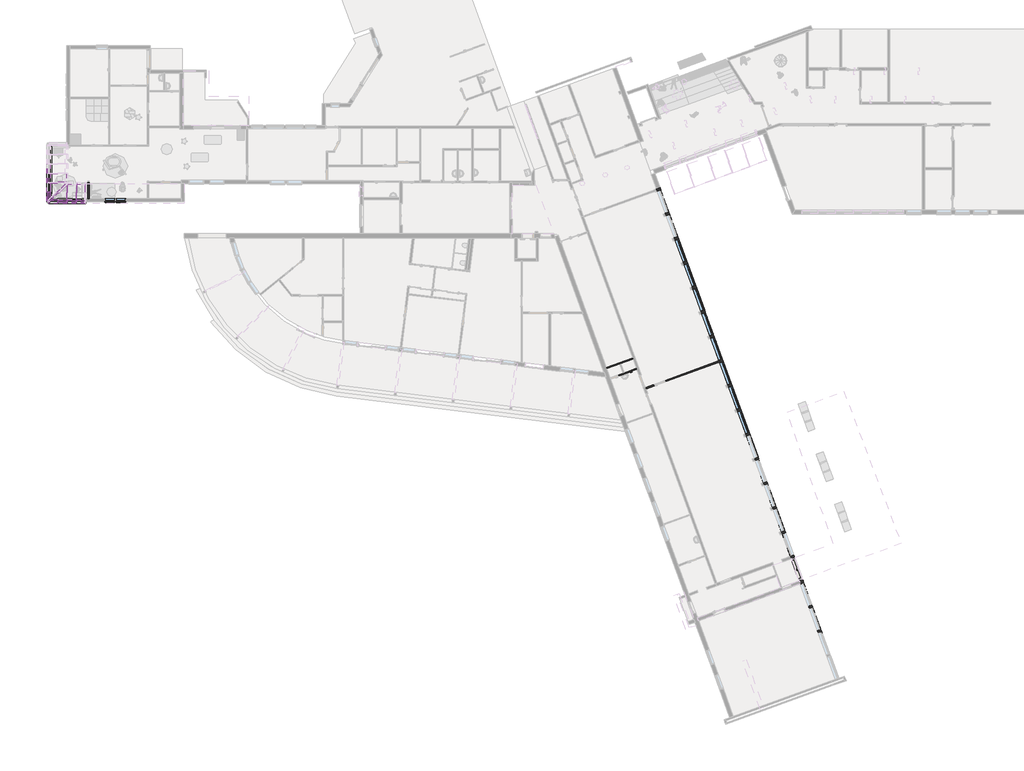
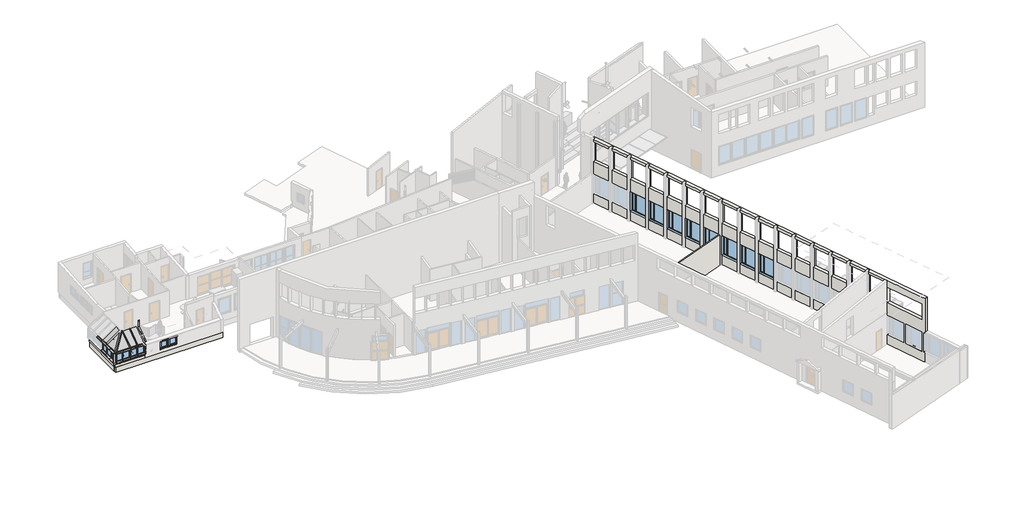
# One storey, part 4 of 13: 27 members, 17 windows, 9 walls, 5 plates, 1 door.
"""IFC4 building model written with IfcOpenShell, lengths in millimetres."""

from ifc_helpers import new_model, si_unit, frame, origin, place, context, project, spatial, polyline, outline, extrude, faceted_brep, transform, mapped, element, save
from components import door_7x21_15e86ef2, rectangular_mullion_50_x_100mm_32921d9c, rectangular_mullion_50_x_100mm_d6c749a0, rectangular_mullion_50_x_100mm_c186e3b1, rectangular_mullion_50_x_100mm_30790735, rectangular_mullion_50_x_100mm_6f98f456, rectangular_mullion_50_x_100mm_fe611bd6, rectangular_mullion_50_x_100mm_699c379f, rectangular_mullion_50_x_100mm_a1e9fdaf, rectangular_mullion_50_x_150mm_88eebec3, rectangular_mullion_50_x_150mm_d157fd23, system_panel_glazed_632911cd, system_panel_glazed_2f817a3c, system_panel_glazed_4af0c66e, system_panel_glazed_f3d5071e, system_panel_glazed_b3cc5cf8, window_193x212_1140f226, window_7x7_fk_a7d3f3a8, curtain_wall_awning_curtain_wall_awning_fc9573cd, curtain_wall_awning_curtain_wall_awning_8a8df056, curtain_wall_awning_curtain_wall_awning_5f5da433, curtain_wall_awning_curtain_wall_awning_e2df08a2

model = new_model("IFC4")

# Units and contexts
model_context = context("Model", 3, world=origin())
ifc_project = project(units=[si_unit("LENGTHUNIT", "METRE", prefix="MILLI")], contexts=[model_context])

# Site, building, storey
site = spatial("IfcSite", under=ifc_project)
building = spatial("IfcBuilding", under=site)
storey = spatial("IfcBuildingStorey", under=building, Name="1.0 første etg hovedbygg", Elevation=2500.0)

# Door
placement = place(None, origin())
door_7x21_shape = door_7x21_15e86ef2(model_context)
element("IfcDoor", 1, ObjectType="Innerdør Slett (Diplomat) : 7x21", at=placement, inside=storey, context=model_context, shape_type="MappedRepresentation", body=[
    mapped(door_7x21_shape, transform((33252.1399511, -11373.1326866, 2500.0), x_axis=(-0.939692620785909, -0.3420201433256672, 0.0), y_axis=(0.3420201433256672, -0.939692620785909, 0.0), z_axis=(0.0, 0.0, 1.0))),
])

# Members
rectangular_mullion_50_x_100mm_shape = rectangular_mullion_50_x_100mm_32921d9c(model_context)
element("IfcMember", 2, ObjectType="Rectangular Mullion : 50 x 100mm", at=placement, inside=storey, context=model_context, shape_type="MappedRepresentation", body=[
    mapped(rectangular_mullion_50_x_100mm_shape, transform((-14953.1146748, 2545.0013961, 3000.0), x_axis=(0.0, -1.0, 0.0), y_axis=(-1.0, 0.0, 0.0), z_axis=(0.0, 0.0, -1.0))),
])
element("IfcMember", 3, ObjectType="Rectangular Mullion : 50 x 100mm", at=placement, inside=storey, context=model_context, shape_type="MappedRepresentation", body=[
    mapped(rectangular_mullion_50_x_100mm_shape, transform((-11906.1146748, 2545.0013961, 3000.0), x_axis=(1.0, 0.0, 0.0), y_axis=(0.0, -1.0, 0.0), z_axis=(0.0, 0.0, -1.0))),
])
element("IfcMember", 4, ObjectType="Rectangular Mullion : 50 x 100mm", at=placement, inside=storey, context=model_context, shape_type="MappedRepresentation", body=[
    mapped(rectangular_mullion_50_x_100mm_shape, transform((-14953.1146748, 2545.0013961, 4050.0), x_axis=(-1.0, 0.0, 0.0), y_axis=(0.0, -1.0, 0.0), z_axis=(0.0, 0.0, 1.0))),
])
rectangular_mullion_50_x_100mm_2_shape = rectangular_mullion_50_x_100mm_d6c749a0(model_context)
element("IfcMember", 5, ObjectType="Rectangular Mullion : 50 x 100mm", at=placement, inside=storey, context=model_context, shape_type="MappedRepresentation", body=[
    mapped(rectangular_mullion_50_x_100mm_2_shape, transform((-14953.1146748, 2545.0013961, 4050.0), x_axis=(-0.773589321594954, 0.5190862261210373, 0.3634680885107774), y_axis=(0.0, 0.5735764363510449, -0.8191520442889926), z_axis=(-0.6336872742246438, -0.6336872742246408, -0.44371260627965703))),
])
rectangular_mullion_50_x_100mm_3_shape = rectangular_mullion_50_x_100mm_c186e3b1(model_context)
element("IfcMember", 6, ObjectType="Rectangular Mullion : 50 x 100mm", at=placement, inside=storey, context=model_context, shape_type="MappedRepresentation", body=[
    mapped(rectangular_mullion_50_x_100mm_3_shape, transform((-12667.8646748, 3989.0423978, 5061.1283949), x_axis=(1.0, 0.0, 0.0), y_axis=(0.0, 0.5735764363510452, -0.8191520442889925), z_axis=(0.0, 0.8191520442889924, 0.573576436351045))),
])
element("IfcMember", 7, ObjectType="Rectangular Mullion : 50 x 100mm", at=placement, inside=storey, context=model_context, shape_type="MappedRepresentation", body=[
    mapped(rectangular_mullion_50_x_100mm_3_shape, transform((-13429.6146748, 3989.0423978, 5061.1283949), x_axis=(1.0, 0.0, 0.0), y_axis=(0.0, 0.5735764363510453, -0.8191520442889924), z_axis=(0.0, 0.8191520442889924, 0.5735764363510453))),
])
rectangular_mullion_50_x_100mm_4_shape = rectangular_mullion_50_x_100mm_30790735(model_context)
element("IfcMember", 8, ObjectType="Rectangular Mullion : 50 x 100mm", at=placement, inside=storey, context=model_context, shape_type="MappedRepresentation", body=[
    mapped(rectangular_mullion_50_x_100mm_4_shape, transform((-11957.7908366, 2545.0013961, 4050.0), x_axis=(0.0, -0.8191520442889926, -0.573576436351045), y_axis=(0.0, 0.573576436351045, -0.8191520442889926), z_axis=(1.0, 0.0, 0.0))),
])
rectangular_mullion_50_x_100mm_5_shape = rectangular_mullion_50_x_100mm_6f98f456(model_context)
element("IfcMember", 9, ObjectType="Rectangular Mullion : 50 x 100mm", at=placement, inside=storey, context=model_context, shape_type="MappedRepresentation", body=[
    mapped(rectangular_mullion_50_x_100mm_5_shape, transform((-14953.1146748, 4105.0013961, 4050.0), x_axis=(-0.819152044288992, 0.0, -0.5735764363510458), y_axis=(0.5735764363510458, 0.0, -0.819152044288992), z_axis=(0.0, -1.0, 0.0))),
])
element("IfcMember", 10, ObjectType="Rectangular Mullion : 50 x 100mm", at=placement, inside=storey, context=model_context, shape_type="MappedRepresentation", body=[
    mapped(rectangular_mullion_50_x_100mm_5_shape, transform((-14953.1146748, 4885.0013961, 4050.0), x_axis=(-0.819152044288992, 0.0, -0.5735764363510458), y_axis=(0.5735764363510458, 0.0, -0.819152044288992), z_axis=(0.0, -1.0, 0.0))),
])
rectangular_mullion_50_x_100mm_6_shape = rectangular_mullion_50_x_100mm_fe611bd6(model_context)
element("IfcMember", 11, ObjectType="Rectangular Mullion : 50 x 100mm", at=placement, inside=storey, context=model_context, shape_type="MappedRepresentation", body=[
    mapped(rectangular_mullion_50_x_100mm_6_shape, transform((-14953.1146748, 2545.0013961, 4050.0), x_axis=(-0.819152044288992, 0.0, -0.5735764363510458), y_axis=(0.5735764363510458, 0.0, -0.819152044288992), z_axis=(0.0, -1.0, 0.0))),
])
rectangular_mullion_50_x_100mm_7_shape = rectangular_mullion_50_x_100mm_699c379f(model_context)
element("IfcMember", 12, ObjectType="Rectangular Mullion : 50 x 100mm", at=placement, inside=storey, context=model_context, shape_type="MappedRepresentation", body=[
    mapped(rectangular_mullion_50_x_100mm_7_shape, transform((-13429.6146748, 2545.0013961, 4050.0), x_axis=(0.0, -0.8191520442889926, -0.573576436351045), y_axis=(0.0, 0.573576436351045, -0.8191520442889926), z_axis=(1.0, 0.0, 0.0))),
])
rectangular_mullion_50_x_100mm_8_shape = rectangular_mullion_50_x_100mm_a1e9fdaf(model_context)
element("IfcMember", 13, ObjectType="Rectangular Mullion : 50 x 100mm", at=placement, inside=storey, context=model_context, shape_type="MappedRepresentation", body=[
    mapped(rectangular_mullion_50_x_100mm_8_shape, transform((-12667.8646748, 2545.0013961, 4050.0), x_axis=(0.0, -0.8191520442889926, -0.573576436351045), y_axis=(0.0, 0.573576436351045, -0.8191520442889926), z_axis=(1.0, 0.0, 0.0))),
])
rectangular_mullion_50_x_150mm_shape = rectangular_mullion_50_x_150mm_88eebec3(model_context)
element("IfcMember", 14, ObjectType="Rectangular Mullion : 50 x 150mm", at=placement, inside=storey, context=model_context, shape_type="MappedRepresentation", body=[
    mapped(rectangular_mullion_50_x_150mm_shape, transform((-14953.1146748, 2595.0013961, 4050.0), x_axis=(0.0, 0.0, 1.0), y_axis=(-1.0, 0.0, 0.0), z_axis=(0.0, -1.0, 0.0))),
])
element("IfcMember", 15, ObjectType="Rectangular Mullion : 50 x 150mm", at=placement, inside=storey, context=model_context, shape_type="MappedRepresentation", body=[
    mapped(rectangular_mullion_50_x_150mm_shape, transform((-14953.1146748, 3325.0013961, 3000.0), x_axis=(0.0, 0.0, -1.0), y_axis=(-1.0, 0.0, 0.0), z_axis=(0.0, 1.0, 0.0))),
])
rectangular_mullion_50_x_150mm_2_shape = rectangular_mullion_50_x_150mm_d157fd23(model_context)
element("IfcMember", 16, ObjectType="Rectangular Mullion : 50 x 150mm", at=placement, inside=storey, context=model_context, shape_type="MappedRepresentation", body=[
    mapped(rectangular_mullion_50_x_150mm_2_shape, transform((-11956.1146748, 2545.0013961, 4050.0), x_axis=(0.0, 0.0, 1.0), y_axis=(0.0, -1.0, 0.0), z_axis=(1.0, 0.0, 0.0))),
])
element("IfcMember", 17, ObjectType="Rectangular Mullion : 50 x 150mm", at=placement, inside=storey, context=model_context, shape_type="MappedRepresentation", body=[
    mapped(rectangular_mullion_50_x_150mm_2_shape, transform((-14903.1146748, 2545.0013961, 3000.0), x_axis=(0.0, 0.0, -1.0), y_axis=(0.0, -1.0, 0.0), z_axis=(-1.0, 0.0, 0.0))),
])
element("IfcMember", 18, ObjectType="Rectangular Mullion : 50 x 150mm", at=placement, inside=storey, context=model_context, shape_type="MappedRepresentation", body=[
    mapped(rectangular_mullion_50_x_150mm_2_shape, transform((-12667.8646748, 2545.0013961, 3000.0), x_axis=(0.0, 0.0, -1.0), y_axis=(0.0, -1.0, 0.0), z_axis=(-1.0, 0.0, 0.0))),
])
element("IfcMember", 19, ObjectType="Rectangular Mullion : 50 x 150mm", at=placement, inside=storey, context=model_context, shape_type="MappedRepresentation", body=[
    mapped(rectangular_mullion_50_x_150mm_2_shape, transform((-14191.3646748, 2545.0013961, 4050.0), x_axis=(0.0, 0.0, 1.0), y_axis=(0.0, -1.0, 0.0), z_axis=(1.0, 0.0, 0.0))),
])
element("IfcMember", 20, ObjectType="Rectangular Mullion : 50 x 150mm", at=placement, inside=storey, context=model_context, shape_type="MappedRepresentation", body=[
    mapped(rectangular_mullion_50_x_100mm_5_shape, transform((-14953.1146748, 4885.0013961, 3000.0), x_axis=(0.0, 0.0, -1.0), y_axis=(-1.0, 0.0, 0.0), z_axis=(0.0, 1.0, 0.0))),
])
element("IfcMember", 21, ObjectType="Rectangular Mullion : 50 x 150mm", at=placement, inside=storey, context=model_context, shape_type="MappedRepresentation", body=[
    mapped(rectangular_mullion_50_x_100mm_5_shape, transform((-14953.1146748, 4105.0013961, 3000.0), x_axis=(0.0, 0.0, -1.0), y_axis=(-1.0, 0.0, 0.0), z_axis=(0.0, 1.0, 0.0))),
])
element("IfcMember", 22, ObjectType="Rectangular Mullion : 50 x 150mm", at=placement, inside=storey, context=model_context, shape_type="MappedRepresentation", body=[
    mapped(rectangular_mullion_50_x_100mm_5_shape, transform((-14953.1146748, 4885.0013961, 4050.0), x_axis=(0.0, 0.0, 1.0), y_axis=(-1.0, 0.0, 0.0), z_axis=(0.0, -1.0, 0.0))),
])
element("IfcMember", 23, ObjectType="Rectangular Mullion : 50 x 150mm", at=placement, inside=storey, context=model_context, shape_type="MappedRepresentation", body=[
    mapped(rectangular_mullion_50_x_100mm_5_shape, transform((-14953.1146748, 4105.0013961, 4050.0), x_axis=(0.0, 0.0, 1.0), y_axis=(-1.0, 0.0, 0.0), z_axis=(0.0, -1.0, 0.0))),
])
element("IfcMember", 24, ObjectType="Rectangular Mullion : 50 x 150mm", at=placement, inside=storey, context=model_context, shape_type="MappedRepresentation", body=[
    mapped(rectangular_mullion_50_x_100mm_5_shape, transform((-14953.1146748, 3325.0013961, 4050.0), x_axis=(0.0, 0.0, 1.0), y_axis=(-1.0, 0.0, 0.0), z_axis=(0.0, -1.0, 0.0))),
])
element("IfcMember", 25, ObjectType="Rectangular Mullion : 50 x 150mm", at=placement, inside=storey, context=model_context, shape_type="MappedRepresentation", body=[
    mapped(rectangular_mullion_50_x_100mm_8_shape, transform((-12667.8646748, 2545.0013961, 4050.0), x_axis=(0.0, 0.0, 1.0), y_axis=(0.0, -1.0, 0.0), z_axis=(1.0, 0.0, 0.0))),
])
element("IfcMember", 26, ObjectType="Rectangular Mullion : 50 x 150mm", at=placement, inside=storey, context=model_context, shape_type="MappedRepresentation", body=[
    mapped(rectangular_mullion_50_x_100mm_8_shape, transform((-13429.6146748, 2545.0013961, 4050.0), x_axis=(0.0, 0.0, 1.0), y_axis=(0.0, -1.0, 0.0), z_axis=(1.0, 0.0, 0.0))),
])
element("IfcMember", 27, ObjectType="Rectangular Mullion : 50 x 150mm", at=placement, inside=storey, context=model_context, shape_type="MappedRepresentation", body=[
    mapped(rectangular_mullion_50_x_100mm_8_shape, transform((-13429.6146748, 2545.0013961, 3000.0), x_axis=(0.0, 0.0, -1.0), y_axis=(0.0, -1.0, 0.0), z_axis=(-1.0, 0.0, 0.0))),
])
element("IfcMember", 28, ObjectType="Rectangular Mullion : 50 x 150mm", at=placement, inside=storey, context=model_context, shape_type="MappedRepresentation", body=[
    mapped(rectangular_mullion_50_x_100mm_8_shape, transform((-14191.3646748, 2545.0013961, 3000.0), x_axis=(0.0, 0.0, -1.0), y_axis=(0.0, -1.0, 0.0), z_axis=(-1.0, 0.0, 0.0))),
])

# Plates
system_panel_glazed_shape = system_panel_glazed_632911cd(model_context)
element("IfcPlate", 29, ObjectType="System Panel : Glazed", at=placement, inside=storey, context=model_context, shape_type="MappedRepresentation", body=[
    mapped(system_panel_glazed_shape, transform((-14912.1570726, 4495.0013961, 4078.6788218), x_axis=(0.0, -1.0, 0.0), y_axis=(0.5735764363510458, 0.0, -0.819152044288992), z_axis=(0.819152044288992, 0.0, 0.5735764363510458))),
])
system_panel_glazed_2_shape = system_panel_glazed_2f817a3c(model_context)
element("IfcPlate", 30, ObjectType="System Panel : Glazed", at=placement, inside=storey, context=model_context, shape_type="MappedRepresentation", body=[
    mapped(system_panel_glazed_2_shape, transform((-14151.068985, 2585.9589983, 4078.6788218), x_axis=(1.0, 0.0, 0.0), y_axis=(0.0, 0.573576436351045, -0.8191520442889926), z_axis=(0.0, 0.8191520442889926, 0.573576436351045))),
])
system_panel_glazed_3_shape = system_panel_glazed_4af0c66e(model_context)
element("IfcPlate", 31, ObjectType="System Panel : Glazed", at=placement, inside=storey, context=model_context, shape_type="MappedRepresentation", body=[
    mapped(system_panel_glazed_3_shape, transform((-14912.1570726, 3365.2970859, 4078.6788218), x_axis=(0.0, -1.0, 0.0), y_axis=(0.5735764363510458, 0.0, -0.819152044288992), z_axis=(0.819152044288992, 0.0, 0.5735764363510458))),
])
system_panel_glazed_4_shape = system_panel_glazed_f3d5071e(model_context)
element("IfcPlate", 32, ObjectType="System Panel : Glazed", at=placement, inside=storey, context=model_context, shape_type="MappedRepresentation", body=[
    mapped(system_panel_glazed_4_shape, transform((-12300.3277557, 2585.9589983, 4078.6788218), x_axis=(1.0, 0.0, 0.0), y_axis=(0.0, 0.573576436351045, -0.8191520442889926), z_axis=(0.0, 0.8191520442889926, 0.573576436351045))),
])
system_panel_glazed_5_shape = system_panel_glazed_b3cc5cf8(model_context)
element("IfcPlate", 33, ObjectType="System Panel : Glazed", at=placement, inside=storey, context=model_context, shape_type="MappedRepresentation", body=[
    mapped(system_panel_glazed_5_shape, transform((-13048.7396748, 2585.9589983, 4078.6788218), x_axis=(1.0, 0.0, 0.0), y_axis=(0.0, 0.573576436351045, -0.8191520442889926), z_axis=(0.0, 0.8191520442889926, 0.573576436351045))),
])

# Walls
element("IfcWall", 34, ObjectType="Yttervegg Tre 198 Isolert Liggende Kledning", at=placement, inside=storey, context=model_context, shape_type="Brep", body=[
    faceted_brep([(-14714.1146748, 2784.0013961, 2500.0), (-14714.1146748, 6986.0013961, 2500.0), (-14714.1146748, 7250.0013961, 2500.0), (-14714.1146748, 7250.0013961, 2995.0), (-14714.1146748, 7250.0013961, 3000.0), (-14714.1146748, 6986.0013961, 3000.0), (-14714.1146748, 2784.0013961, 3000.0), (-14978.1146748, 2784.0013961, 3000.0), (-14978.1146748, 7250.0013961, 3000.0), (-14978.1146748, 7250.0013961, 2995.0), (-14978.1146748, 7250.0013961, 2500.0), (-14978.1146748, 2784.0013961, 2500.0), (-14978.1146748, 2784.0013961, 2995.0), (-14924.1146748, 2784.0013961, 2500.0), (-14924.1146748, 7250.0013961, 2500.0)], [[[0, 1, 2, 3, 4, 5, 6]], [[7, 8, 9, 10, 11, 12]], [[6, 5, 4, 8, 7]], [[2, 1, 0, 13, 14]], [[0, 6, 7, 12, 11, 13]], [[11, 10, 14, 13]], [[8, 4, 3, 2, 14, 10, 9]]]),
])
element("IfcWall", 35, ObjectType="Innervegg Tre 68 med isolasjon", at=placement, inside=storey, context=model_context, shape_type="Brep", body=[
    faceted_brep([(33198.5976263, -10352.9188153, 2500.0), (31018.5107461, -11146.4055479, 2500.0), (31018.5107461, -11146.4055479, 5820.0), (33198.5976263, -10352.9188153, 5820.0), (33230.0634795, -10439.3705365, 2500.0), (33230.0634795, -10439.3705365, 5820.0), (32211.4366785, -10810.1203718, 5820.0), (32124.9849574, -10841.586225, 5820.0), (31049.9765993, -11232.857269, 5820.0), (31049.9765993, -11232.857269, 2500.0), (32124.9849574, -10841.586225, 2500.0), (32211.4366785, -10810.1203718, 2500.0)], [[[0, 1, 2, 3]], [[4, 5, 6, 7, 8, 9, 10, 11]], [[1, 0, 4, 11, 10, 9]], [[3, 2, 8, 7, 6, 5]], [[2, 1, 9, 8]], [[0, 3, 5, 4]]]),
])
element("IfcWall", 36, ObjectType="Innervegg Tre 68 med isolasjon", at=placement, inside=storey, context=model_context, shape_type="Brep", body=[
    faceted_brep([(33548.4842329, -11314.2243664, 5820.0), (31368.3973527, -12107.7110989, 5820.0), (31368.3973527, -12107.7110989, 2500.0), (31377.7942789, -12104.2908975, 2500.0), (31377.7942789, -12104.2908975, 4615.0), (32044.9760397, -11861.4565957, 4615.0), (32044.9760397, -11861.4565957, 2500.0), (32884.12155, -11556.0326077, 2500.0), (32884.12155, -11556.0326077, 4615.0), (33548.4842329, -11314.2243664, 4615.0), (31336.9314995, -12021.2593778, 5820.0), (32411.9398577, -11629.9883338, 5820.0), (32498.3915788, -11598.5224807, 5820.0), (33517.0183797, -11227.7726453, 5820.0), (33517.0183797, -11227.7726453, 4615.0), (32852.6556968, -11469.5808866, 4615.0), (32852.6556968, -11469.5808866, 2500.0), (32498.3915788, -11598.5224807, 2500.0), (32411.9398577, -11629.9883338, 2500.0), (32013.5101865, -11775.0048746, 2500.0), (32013.5101865, -11775.0048746, 4615.0), (31346.3284257, -12017.8391764, 4615.0), (31346.3284257, -12017.8391764, 2500.0), (31336.9314995, -12021.2593778, 2500.0)], [[[0, 1, 2, 3, 4, 5, 6, 7, 8, 9]], [[10, 11, 12, 13, 14, 15, 16, 17, 18, 19, 20, 21, 22, 23]], [[2, 23, 22, 3]], [[16, 7, 6, 19, 18, 17]], [[1, 0, 13, 12, 11, 10]], [[13, 0, 9, 14]], [[2, 1, 10, 23]], [[8, 15, 14, 9]], [[15, 8, 7, 16]], [[21, 4, 3, 22]], [[4, 21, 20, 5]], [[5, 20, 19, 6]]]),
])
element("IfcWall", 37, ObjectType="innvendig vegg 98 isolert", at=placement, inside=storey, context=model_context, shape_type="SweptSolid", body=[
    extrude(outline(polyline([(8930.0000001, -3320.0), (2490.0, -3320.0), (2490.0, 0.0), (3205.0000001, 0.0), (3205.0000001, -2115.0), (4215.0000001, -2115.0), (4215.0000001, 0.0), (8930.0000001, 0.0), (8930.0000001, -3320.0)])), frame((31967.9586639, -13754.9922632, 2500.0), z_axis=(-0.34202014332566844, 0.9396926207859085, 0.0), x_axis=(0.9396926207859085, 0.34202014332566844, 0.0)), (0.0, 0.0, 1.0), 122.0),
])
element("IfcWall", 38, ObjectType="Yttervegg Tre 198 Isolert Liggende Kledning", at=placement, inside=storey, context=model_context, shape_type="Brep", body=[
    faceted_brep([(-11906.1146748, 2784.0013961, 2500.0), (-14714.1146748, 2784.0013961, 2500.0), (-14978.1146748, 2784.0013961, 2500.0), (-14978.1146748, 2784.0013961, 2995.0), (-14978.1146748, 2784.0013961, 3000.0), (-14714.1146748, 2784.0013961, 3000.0), (-11906.1146748, 2784.0013961, 3000.0), (-11906.1146748, 2520.0013961, 3000.0), (-14978.1146748, 2520.0013961, 3000.0), (-14978.1146748, 2520.0013961, 2995.0), (-14978.1146748, 2520.0013961, 2500.0), (-11906.1146748, 2520.0013961, 2500.0), (-11906.1146748, 2520.0013961, 2995.0), (-11906.1146748, 2574.0013961, 2500.0), (-14978.1146748, 2574.0013961, 2500.0)], [[[0, 1, 2, 3, 4, 5, 6]], [[7, 8, 9, 10, 11, 12]], [[6, 5, 4, 8, 7]], [[0, 6, 7, 12, 11, 13]], [[2, 1, 0, 13, 14]], [[13, 11, 10, 14]], [[8, 4, 3, 2, 14, 10, 9]]]),
])
element("IfcWall", 39, ObjectType="Yttervegg 150 betong + 150 leca innv puss", at=placement, inside=storey, context=model_context, shape_type="Brep", body=[
    faceted_brep([(35157.2873876, 3591.9723789, 2300.0), (46186.4109494, -26710.2955636, 2300.0), (46261.6553809, -26917.0279402, 2300.0), (46929.6207208, -28752.2476286, 2300.0), (47021.9661595, -29005.9646362, 2300.0), (48543.6137772, -33186.6571061, 2300.0), (48543.6137772, -33186.6571061, 3550.0), (48491.9687356, -33044.7635203, 3550.0), (48491.9687356, -33044.7635203, 5674.0), (48543.6137772, -33186.6571061, 5674.0), (48543.6137772, -33186.6571061, 5820.0), (48543.6137772, -33186.6571061, 9498.5808209), (48540.5355959, -33178.1998725, 9498.5808209), (48434.5093515, -32886.89516, 9498.5808209), (47021.9661595, -29005.9646362, 9498.5808209), (46929.6207208, -28752.2476286, 9498.5808209), (46261.6553809, -26917.0279402, 9498.5808209), (46186.4109494, -26710.2955636, 9498.5808209), (43321.992249, -18840.3698645, 9498.5808209), (43243.3276161, -18624.2405617, 9498.5808209), (40380.6190164, -10759.0133258, 9498.5808209), (40301.9543835, -10542.884023, 9498.5808209), (38887.0170505, -6655.3756508, 9498.5808209), (38835.714029, -6514.4217577, 9498.5808209), (37439.2457838, -2677.656787, 9498.5808209), (37360.5811509, -2461.5274842, 9498.5808209), (35157.2873876, 3591.9723789, 9498.5808209), (35157.2873876, 3591.9723789, 4600.0), (35162.2228941, 3578.4121863, 4600.0), (35162.2228941, 3578.4121863, 2500.0), (35157.2873876, 3591.9723789, 2500.0), (47027.0964617, -29020.0600255, 7070.0), (47027.0964617, -29020.0600255, 8724.0), (48418.4344047, -32842.7296068, 8724.0), (48418.4344047, -32842.7296068, 7070.0), (35230.8217184, 3389.9384654, 3550.0), (35230.8217184, 3389.9384654, 5674.0), (35892.2886756, 1572.5729368, 5674.0), (35892.2886756, 1572.5729368, 3550.0), (35966.1650265, 1369.5993307, 3550.0), (35966.1650265, 1369.5993307, 5674.0), (36627.6319837, -447.7661979, 5674.0), (36627.6319837, -447.7661979, 3550.0), (36701.5083347, -650.739804, 3550.0), (36701.5083347, -650.739804, 5674.0), (37362.9752919, -2468.1053326, 5674.0), (37362.9752919, -2468.1053326, 3550.0), (37436.8516428, -2671.0789387, 3550.0), (37436.8516428, -2671.0789387, 5674.0), (38098.3186, -4488.4444673, 5674.0), (38098.3186, -4488.4444673, 3550.0), (38172.194951, -4691.4180733, 3550.0), (38172.194951, -4691.4180733, 5674.0), (38833.6619082, -6508.7836019, 5674.0), (38833.6619082, -6508.7836019, 3550.0), (38907.5382591, -6711.757208, 3550.0), (38907.5382591, -6711.757208, 5674.0), (39569.0052163, -8529.1227366, 5674.0), (39569.0052163, -8529.1227366, 3550.0), (39642.8815673, -8732.0963427, 3550.0), (39642.8815673, -8732.0963427, 5674.0), (40304.3485245, -10549.4618713, 5674.0), (40304.3485245, -10549.4618713, 3550.0), (40378.2248754, -10752.4354774, 3550.0), (40378.2248754, -10752.4354774, 5674.0), (41039.6918326, -12569.801006, 5674.0), (41039.6918326, -12569.801006, 3550.0), (41113.5681836, -12772.7746121, 3550.0), (41113.5681836, -12772.7746121, 5674.0), (41775.0351408, -14590.1401407, 5674.0), (41775.0351408, -14590.1401407, 3550.0), (41848.9114917, -14793.1137468, 3550.0), (41848.9114917, -14793.1137468, 5674.0), (42510.3784489, -16610.4792754, 5674.0), (42510.3784489, -16610.4792754, 3550.0), (42584.2547999, -16813.4528815, 3550.0), (42584.2547999, -16813.4528815, 5674.0), (43245.7217571, -18630.8184101, 5674.0), (43245.7217571, -18630.8184101, 3550.0), (43319.598108, -18833.7920162, 3550.0), (43319.598108, -18833.7920162, 5674.0), (43981.0650652, -20651.1575448, 5674.0), (43981.0650652, -20651.1575448, 3550.0), (44054.9414162, -20854.1311509, 3550.0), (44054.9414162, -20854.1311509, 5674.0), (44716.4083734, -22671.4966795, 5674.0), (44716.4083734, -22671.4966795, 3550.0), (44790.2847243, -22874.4702855, 3550.0), (44790.2847243, -22874.4702855, 5674.0), (45451.7516815, -24691.8358141, 5674.0), (45451.7516815, -24691.8358141, 3550.0), (45525.6280325, -24894.8094202, 3550.0), (45525.6280325, -24894.8094202, 5674.0), (46187.0949897, -26712.1749488, 5674.0), (46187.0949897, -26712.1749488, 3550.0), (47029.8326228, -29027.5775665, 3550.0), (47029.8326228, -29027.5775665, 5674.0), (47691.29958, -30844.9430951, 5674.0), (47691.29958, -30844.9430951, 3550.0), (47756.6254274, -31024.4243856, 3550.0), (47756.6254274, -31024.4243856, 5674.0), (48418.0923846, -32841.7899142, 5674.0), (48418.0923846, -32841.7899142, 3550.0), (46273.4550759, -26949.4473356, 4690.0), (46273.4550759, -26949.4473356, 5674.0), (46917.8210259, -28719.8282331, 5674.0), (46917.8210259, -28719.8282331, 4690.0), (46868.7411353, -28584.9823421, 4690.0), (46868.7411353, -28584.9823421, 4524.0), (46917.8210259, -28719.8282331, 4524.0), (46917.8210259, -28719.8282331, 3540.0), (46868.7411353, -28584.9823421, 3540.0), (46868.7411353, -28584.9823421, 2500.0), (46318.0887046, -27072.0772226, 2500.0), (46318.0887046, -27072.0772226, 3540.0), (46273.4550759, -26949.4473356, 3540.0), (46273.4550759, -26949.4473356, 4524.0), (46318.0887046, -27072.0772226, 4524.0), (46318.0887046, -27072.0772226, 4690.0), (35230.8217184, 3389.9384654, 7070.0), (35230.8217184, 3389.9384654, 9194.0), (35892.2886756, 1572.5729368, 9194.0), (35892.2886756, 1572.5729368, 7070.0), (35966.1650265, 1369.5993307, 7070.0), (35966.1650265, 1369.5993307, 9194.0), (36627.6319837, -447.7661979, 9194.0), (36627.6319837, -447.7661979, 7070.0), (36701.5083347, -650.739804, 7070.0), (36701.5083347, -650.739804, 9194.0), (37362.9752919, -2468.1053326, 9194.0), (37362.9752919, -2468.1053326, 7070.0), (37436.8516428, -2671.0789387, 7070.0), (37436.8516428, -2671.0789387, 9194.0), (38098.3186, -4488.4444673, 9194.0), (38098.3186, -4488.4444673, 7070.0), (38172.194951, -4691.4180733, 7070.0), (38172.194951, -4691.4180733, 9194.0), (38833.6619082, -6508.7836019, 9194.0), (38833.6619082, -6508.7836019, 7070.0), (38907.5382591, -6711.757208, 7070.0), (38907.5382591, -6711.757208, 9194.0), (39569.0052163, -8529.1227366, 9194.0), (39569.0052163, -8529.1227366, 7070.0), (39642.8815673, -8732.0963427, 7070.0), (39642.8815673, -8732.0963427, 9194.0), (40304.3485245, -10549.4618713, 9194.0), (40304.3485245, -10549.4618713, 7070.0), (40378.2248754, -10752.4354774, 7070.0), (40378.2248754, -10752.4354774, 9194.0), (41039.6918326, -12569.801006, 9194.0), (41039.6918326, -12569.801006, 7070.0), (41113.5681836, -12772.7746121, 7070.0), (41113.5681836, -12772.7746121, 9194.0), (41775.0351408, -14590.1401407, 9194.0), (41775.0351408, -14590.1401407, 7070.0), (41848.9114917, -14793.1137468, 7070.0), (41848.9114917, -14793.1137468, 9194.0), (42510.3784489, -16610.4792754, 9194.0), (42510.3784489, -16610.4792754, 7070.0), (42584.2547999, -16813.4528815, 7070.0), (42584.2547999, -16813.4528815, 9194.0), (43245.7217571, -18630.8184101, 9194.0), (43245.7217571, -18630.8184101, 7070.0), (43319.598108, -18833.7920162, 7070.0), (43319.598108, -18833.7920162, 9194.0), (43981.0650652, -20651.1575448, 9194.0), (43981.0650652, -20651.1575448, 7070.0), (44054.9414162, -20854.1311509, 7070.0), (44054.9414162, -20854.1311509, 9194.0), (44716.4083734, -22671.4966795, 9194.0), (44716.4083734, -22671.4966795, 7070.0), (44790.2847243, -22874.4702855, 7070.0), (44790.2847243, -22874.4702855, 9194.0), (45451.7516815, -24691.8358141, 9194.0), (45451.7516815, -24691.8358141, 7070.0), (45525.6280325, -24894.8094202, 7070.0), (45525.6280325, -24894.8094202, 9194.0), (46187.0949897, -26712.1749488, 9194.0), (46187.0949897, -26712.1749488, 7070.0), (46260.9713406, -26915.1485549, 7070.0), (46260.9713406, -26915.1485549, 9194.0), (46922.4382978, -28732.5140835, 9194.0), (46922.4382978, -28732.5140835, 7070.0), (48834.9184896, -33080.6308616, 2300.0), (35448.5921, 3697.9986233, 2300.0), (35448.5921, 3697.9986233, 2500.0), (35453.5276065, 3684.4384307, 2500.0), (35453.5276065, 3684.4384307, 4600.0), (35448.5921, 3697.9986233, 4600.0), (35448.5921, 3697.9986233, 9531.1631339), (48834.9184896, -33080.6308616, 9531.1631339), (48834.9184896, -33080.6308616, 5674.0), (48783.273448, -32938.7372759, 5674.0), (48783.273448, -32938.7372759, 3550.0), (48834.9184896, -33080.6308616, 3550.0), (47318.4011741, -28914.0337811, 8724.0), (47318.4011741, -28914.0337811, 7070.0), (48709.7391172, -32736.7033624, 7070.0), (48709.7391172, -32736.7033624, 8724.0), (35522.1264308, 3495.9647098, 5674.0), (35522.1264308, 3495.9647098, 3550.0), (36183.593388, 1678.5991812, 3550.0), (36183.593388, 1678.5991812, 5674.0), (36257.469739, 1475.6255752, 5674.0), (36257.469739, 1475.6255752, 3550.0), (36918.9366962, -341.7399534, 3550.0), (36918.9366962, -341.7399534, 5674.0), (36992.8130471, -544.7135595, 5674.0), (36992.8130471, -544.7135595, 3550.0), (37654.2800043, -2362.0790881, 3550.0), (37654.2800043, -2362.0790881, 5674.0), (37728.1563553, -2565.0526942, 5674.0), (37728.1563553, -2565.0526942, 3550.0), (38389.6233125, -4382.4182228, 3550.0), (38389.6233125, -4382.4182228, 5674.0), (38463.4996634, -4585.3918289, 5674.0), (38463.4996634, -4585.3918289, 3550.0), (39124.9666206, -6402.7573575, 3550.0), (39124.9666206, -6402.7573575, 5674.0), (39198.8429716, -6605.7309636, 5674.0), (39198.8429716, -6605.7309636, 3550.0), (39860.3099288, -8423.0964922, 3550.0), (39860.3099288, -8423.0964922, 5674.0), (39934.1862797, -8626.0700983, 5674.0), (39934.1862797, -8626.0700983, 3550.0), (40595.6532369, -10443.4356269, 3550.0), (40595.6532369, -10443.4356269, 5674.0), (40669.5295879, -10646.409233, 5674.0), (40669.5295879, -10646.409233, 3550.0), (41330.9965451, -12463.7747616, 3550.0), (41330.9965451, -12463.7747616, 5674.0), (41404.872896, -12666.7483677, 5674.0), (41404.872896, -12666.7483677, 3550.0), (42066.3398532, -14484.1138963, 3550.0), (42066.3398532, -14484.1138963, 5674.0), (42140.2162042, -14687.0875024, 5674.0), (42140.2162042, -14687.0875024, 3550.0), (42801.6831614, -16504.453031, 3550.0), (42801.6831614, -16504.453031, 5674.0), (42875.5595123, -16707.426637, 5674.0), (42875.5595123, -16707.426637, 3550.0), (43537.0264695, -18524.7921656, 3550.0), (43537.0264695, -18524.7921656, 5674.0), (43610.9028205, -18727.7657717, 5674.0), (43610.9028205, -18727.7657717, 3550.0), (44272.3697777, -20545.1313003, 3550.0), (44272.3697777, -20545.1313003, 5674.0), (44346.2461286, -20748.1049064, 5674.0), (44346.2461286, -20748.1049064, 3550.0), (45007.7130858, -22565.470435, 3550.0), (45007.7130858, -22565.470435, 5674.0), (45081.5894368, -22768.4440411, 5674.0), (45081.5894368, -22768.4440411, 3550.0), (45743.056394, -24585.8095697, 3550.0), (45743.056394, -24585.8095697, 5674.0), (45816.9327449, -24788.7831758, 5674.0), (45816.9327449, -24788.7831758, 3550.0), (46478.3997021, -26606.1487044, 3550.0), (46478.3997021, -26606.1487044, 5674.0), (47321.1373353, -28921.551322, 5674.0), (47321.1373353, -28921.551322, 3550.0), (47982.6042925, -30738.9168506, 3550.0), (47982.6042925, -30738.9168506, 5674.0), (48047.9301399, -30918.3981412, 5674.0), (48047.9301399, -30918.3981412, 3550.0), (48709.397097, -32735.7636698, 3550.0), (48709.397097, -32735.7636698, 5674.0), (46564.7597883, -26843.4210912, 5674.0), (46564.7597883, -26843.4210912, 4690.0), (46609.393417, -26966.0509782, 4690.0), (46609.393417, -26966.0509782, 4524.0), (46564.7597883, -26843.4210912, 4524.0), (46564.7597883, -26843.4210912, 3540.0), (46609.393417, -26966.0509782, 3540.0), (46609.393417, -26966.0509782, 2500.0), (47160.0458478, -28478.9560976, 2500.0), (47160.0458478, -28478.9560976, 3540.0), (47209.1257383, -28613.8019887, 3540.0), (47209.1257383, -28613.8019887, 4524.0), (47160.0458478, -28478.9560976, 4524.0), (47160.0458478, -28478.9560976, 4690.0), (47209.1257383, -28613.8019887, 4690.0), (47209.1257383, -28613.8019887, 5674.0), (35522.1264308, 3495.9647098, 9194.0), (35522.1264308, 3495.9647098, 7070.0), (36183.593388, 1678.5991812, 7070.0), (36183.593388, 1678.5991812, 9194.0), (36257.469739, 1475.6255752, 9194.0), (36257.469739, 1475.6255752, 7070.0), (36918.9366962, -341.7399534, 7070.0), (36918.9366962, -341.7399534, 9194.0), (36992.8130471, -544.7135595, 9194.0), (36992.8130471, -544.7135595, 7070.0), (37654.2800043, -2362.0790881, 7070.0), (37654.2800043, -2362.0790881, 9194.0), (37728.1563553, -2565.0526942, 9194.0), (37728.1563553, -2565.0526942, 7070.0), (38389.6233125, -4382.4182228, 7070.0), (38389.6233125, -4382.4182228, 9194.0), (38463.4996634, -4585.3918289, 9194.0), (38463.4996634, -4585.3918289, 7070.0), (39124.9666206, -6402.7573575, 7070.0), (39124.9666206, -6402.7573575, 9194.0), (39198.8429716, -6605.7309636, 9194.0), (39198.8429716, -6605.7309636, 7070.0), (39860.3099288, -8423.0964922, 7070.0), (39860.3099288, -8423.0964922, 9194.0), (39934.1862797, -8626.0700983, 9194.0), (39934.1862797, -8626.0700983, 7070.0), (40595.6532369, -10443.4356269, 7070.0), (40595.6532369, -10443.4356269, 9194.0), (40669.5295879, -10646.409233, 9194.0), (40669.5295879, -10646.409233, 7070.0), (41330.9965451, -12463.7747616, 7070.0), (41330.9965451, -12463.7747616, 9194.0), (41404.872896, -12666.7483677, 9194.0), (41404.872896, -12666.7483677, 7070.0), (42066.3398532, -14484.1138963, 7070.0), (42066.3398532, -14484.1138963, 9194.0), (42140.2162042, -14687.0875024, 9194.0), (42140.2162042, -14687.0875024, 7070.0), (42801.6831614, -16504.453031, 7070.0), (42801.6831614, -16504.453031, 9194.0), (42875.5595123, -16707.426637, 9194.0), (42875.5595123, -16707.426637, 7070.0), (43537.0264695, -18524.7921656, 7070.0), (43537.0264695, -18524.7921656, 9194.0), (43610.9028205, -18727.7657717, 9194.0), (43610.9028205, -18727.7657717, 7070.0), (44272.3697777, -20545.1313003, 7070.0), (44272.3697777, -20545.1313003, 9194.0), (44346.2461286, -20748.1049064, 9194.0), (44346.2461286, -20748.1049064, 7070.0), (45007.7130858, -22565.470435, 7070.0), (45007.7130858, -22565.470435, 9194.0), (45081.5894368, -22768.4440411, 9194.0), (45081.5894368, -22768.4440411, 7070.0), (45743.056394, -24585.8095697, 7070.0), (45743.056394, -24585.8095697, 9194.0), (45816.9327449, -24788.7831758, 9194.0), (45816.9327449, -24788.7831758, 7070.0), (46478.3997021, -26606.1487044, 7070.0), (46478.3997021, -26606.1487044, 9194.0), (46552.2760531, -26809.1223105, 9194.0), (46552.2760531, -26809.1223105, 7070.0), (47213.7430103, -28626.4878391, 7070.0), (47213.7430103, -28626.4878391, 9194.0)], [[[0, 1, 2, 3, 4, 5, 6, 7, 8, 9, 10, 11, 12, 13, 14, 15, 16, 17, 18, 19, 20, 21, 22, 23, 24, 25, 26, 27, 28, 29, 30], [31, 32, 33, 34], [35, 36, 37, 38], [39, 40, 41, 42], [43, 44, 45, 46], [47, 48, 49, 50], [51, 52, 53, 54], [55, 56, 57, 58], [59, 60, 61, 62], [63, 64, 65, 66], [67, 68, 69, 70], [71, 72, 73, 74], [75, 76, 77, 78], [79, 80, 81, 82], [83, 84, 85, 86], [87, 88, 89, 90], [91, 92, 93, 94], [95, 96, 97, 98], [99, 100, 101, 102], [103, 104, 105, 106, 107, 108, 109, 110, 111, 112, 113, 114, 115, 116, 117, 118], [119, 120, 121, 122], [123, 124, 125, 126], [127, 128, 129, 130], [131, 132, 133, 134], [135, 136, 137, 138], [139, 140, 141, 142], [143, 144, 145, 146], [147, 148, 149, 150], [151, 152, 153, 154], [155, 156, 157, 158], [159, 160, 161, 162], [163, 164, 165, 166], [167, 168, 169, 170], [171, 172, 173, 174], [175, 176, 177, 178], [179, 180, 181, 182]], [[183, 184, 185, 186, 187, 188, 189, 190, 191, 192, 193, 194], [195, 196, 197, 198], [199, 200, 201, 202], [203, 204, 205, 206], [207, 208, 209, 210], [211, 212, 213, 214], [215, 216, 217, 218], [219, 220, 221, 222], [223, 224, 225, 226], [227, 228, 229, 230], [231, 232, 233, 234], [235, 236, 237, 238], [239, 240, 241, 242], [243, 244, 245, 246], [247, 248, 249, 250], [251, 252, 253, 254], [255, 256, 257, 258], [259, 260, 261, 262], [263, 264, 265, 266], [267, 268, 269, 270, 271, 272, 273, 274, 275, 276, 277, 278, 279, 280, 281, 282], [283, 284, 285, 286], [287, 288, 289, 290], [291, 292, 293, 294], [295, 296, 297, 298], [299, 300, 301, 302], [303, 304, 305, 306], [307, 308, 309, 310], [311, 312, 313, 314], [315, 316, 317, 318], [319, 320, 321, 322], [323, 324, 325, 326], [327, 328, 329, 330], [331, 332, 333, 334], [335, 336, 337, 338], [339, 340, 341, 342], [343, 344, 345, 346]], [[5, 4, 3, 2, 1, 0, 184, 183]], [[190, 11, 10, 9, 191]], [[5, 183, 194, 6]], [[184, 0, 30, 185]], [[26, 189, 188, 27]], [[26, 25, 24, 23, 22, 21, 20, 19, 18, 17, 16, 15, 14, 13, 12, 11, 190, 189]], [[7, 193, 192, 8]], [[8, 192, 191, 9]], [[193, 7, 6, 194]], [[31, 196, 195, 32]], [[32, 195, 198, 33]], [[196, 31, 34, 197]], [[197, 34, 33, 198]], [[186, 29, 28, 187]], [[187, 28, 27, 188]], [[29, 186, 185, 30]], [[103, 268, 267, 104]], [[104, 267, 282, 105]], [[105, 282, 281, 106]], [[268, 103, 118, 269]], [[106, 281, 280, 107]], [[115, 272, 271, 116]], [[116, 271, 270, 117]], [[278, 109, 108, 279]], [[109, 278, 277, 110]], [[272, 115, 114, 273]], [[110, 277, 276, 111]], [[35, 200, 199, 36]], [[36, 199, 202, 37]], [[37, 202, 201, 38]], [[200, 35, 38, 201]], [[39, 204, 203, 40]], [[40, 203, 206, 41]], [[41, 206, 205, 42]], [[204, 39, 42, 205]], [[43, 208, 207, 44]], [[44, 207, 210, 45]], [[45, 210, 209, 46]], [[208, 43, 46, 209]], [[47, 212, 211, 48]], [[48, 211, 214, 49]], [[49, 214, 213, 50]], [[212, 47, 50, 213]], [[51, 216, 215, 52]], [[52, 215, 218, 53]], [[53, 218, 217, 54]], [[216, 51, 54, 217]], [[55, 220, 219, 56]], [[56, 219, 222, 57]], [[57, 222, 221, 58]], [[220, 55, 58, 221]], [[59, 224, 223, 60]], [[60, 223, 226, 61]], [[61, 226, 225, 62]], [[224, 59, 62, 225]], [[63, 228, 227, 64]], [[64, 227, 230, 65]], [[65, 230, 229, 66]], [[228, 63, 66, 229]], [[67, 232, 231, 68]], [[68, 231, 234, 69]], [[69, 234, 233, 70]], [[232, 67, 70, 233]], [[71, 236, 235, 72]], [[72, 235, 238, 73]], [[73, 238, 237, 74]], [[236, 71, 74, 237]], [[75, 240, 239, 76]], [[76, 239, 242, 77]], [[77, 242, 241, 78]], [[240, 75, 78, 241]], [[79, 244, 243, 80]], [[80, 243, 246, 81]], [[81, 246, 245, 82]], [[244, 79, 82, 245]], [[83, 248, 247, 84]], [[84, 247, 250, 85]], [[85, 250, 249, 86]], [[248, 83, 86, 249]], [[87, 252, 251, 88]], [[88, 251, 254, 89]], [[89, 254, 253, 90]], [[252, 87, 90, 253]], [[92, 91, 256, 255]], [[93, 92, 255, 258]], [[94, 93, 258, 257]], [[91, 94, 257, 256]], [[95, 260, 259, 96]], [[96, 259, 262, 97]], [[97, 262, 261, 98]], [[260, 95, 98, 261]], [[99, 264, 263, 100]], [[100, 263, 266, 101]], [[101, 266, 265, 102]], [[264, 99, 102, 265]], [[113, 274, 273, 114]], [[269, 118, 117, 270]], [[274, 113, 112, 275]], [[275, 112, 111, 276]], [[107, 280, 279, 108]], [[119, 284, 283, 120]], [[120, 283, 286, 121]], [[121, 286, 285, 122]], [[284, 119, 122, 285]], [[123, 288, 287, 124]], [[124, 287, 290, 125]], [[125, 290, 289, 126]], [[288, 123, 126, 289]], [[127, 292, 291, 128]], [[128, 291, 294, 129]], [[129, 294, 293, 130]], [[292, 127, 130, 293]], [[131, 296, 295, 132]], [[132, 295, 298, 133]], [[133, 298, 297, 134]], [[296, 131, 134, 297]], [[135, 300, 299, 136]], [[136, 299, 302, 137]], [[137, 302, 301, 138]], [[300, 135, 138, 301]], [[139, 304, 303, 140]], [[140, 303, 306, 141]], [[141, 306, 305, 142]], [[304, 139, 142, 305]], [[143, 308, 307, 144]], [[144, 307, 310, 145]], [[145, 310, 309, 146]], [[308, 143, 146, 309]], [[147, 312, 311, 148]], [[148, 311, 314, 149]], [[149, 314, 313, 150]], [[312, 147, 150, 313]], [[151, 316, 315, 152]], [[152, 315, 318, 153]], [[153, 318, 317, 154]], [[316, 151, 154, 317]], [[155, 320, 319, 156]], [[156, 319, 322, 157]], [[157, 322, 321, 158]], [[320, 155, 158, 321]], [[159, 324, 323, 160]], [[160, 323, 326, 161]], [[161, 326, 325, 162]], [[324, 159, 162, 325]], [[163, 328, 327, 164]], [[164, 327, 330, 165]], [[165, 330, 329, 166]], [[328, 163, 166, 329]], [[167, 332, 331, 168]], [[168, 331, 334, 169]], [[169, 334, 333, 170]], [[332, 167, 170, 333]], [[171, 336, 335, 172]], [[172, 335, 338, 173]], [[173, 338, 337, 174]], [[336, 171, 174, 337]], [[176, 175, 340, 339]], [[177, 176, 339, 342]], [[178, 177, 342, 341]], [[175, 178, 341, 340]], [[179, 344, 343, 180]], [[180, 343, 346, 181]], [[181, 346, 345, 182]], [[344, 179, 182, 345]]]),
])
element("IfcWall", 40, ObjectType="Generic - 100mm - Filled", at=placement, inside=storey, context=model_context, shape_type="SweptSolid", body=[
    extrude(outline(polyline([(4089.1585123, 2500.0), (2784.0013961, 2500.0), (2784.0013961, 4044.8547901), (4030.0, 4917.3124052), (4030.0, 5620.0), (4085.3896653, 5620.0), (4085.3896653, 5557.1482845), (4089.1585123, 5556.8185531), (4089.1585123, 2500.0)])), frame((-11711.5779852, 0.0, 0.0), z_axis=(1.0, 0.0, 0.0), x_axis=(0.0, 1.0, 0.0)), (0.0, 0.0, 1.0), 100.0),
])
element("IfcWall", 41, ObjectType="Yttervegg 200 betong", at=placement, inside=storey, context=model_context, shape_type="Brep", body=[
    faceted_brep([(-3798.0837517, 2774.0013961, 1900.0), (-3998.0837517, 2774.0013961, 1900.0), (-14724.1146748, 2774.0013961, 1900.0), (-14924.1146748, 2774.0013961, 1900.0), (-14924.1146748, 2774.0013961, 2500.0), (-14724.1146748, 2774.0013961, 2500.0), (-3998.0837517, 2774.0013961, 2500.0), (-3798.0837517, 2774.0013961, 2500.0), (-3798.0837517, 2574.0013961, 1900.0), (-3798.0837517, 2574.0013961, 2500.0), (-14924.1146748, 2574.0013961, 2500.0), (-14924.1146748, 2574.0013961, 1900.0)], [[[0, 1, 2, 3, 4, 5, 6, 7]], [[8, 9, 10, 11]], [[3, 2, 1, 0, 8, 11]], [[7, 6, 5, 4, 10, 9]], [[4, 3, 11, 10]], [[0, 7, 9, 8]]]),
])
element("IfcWall", 42, ObjectType="Yttervegg 200 betong", at=placement, inside=storey, context=model_context, shape_type="Brep", body=[
    faceted_brep([(-14724.1146748, 2774.0013961, 1900.0), (-14724.1146748, 6996.0013961, 1900.0), (-14724.1146748, 7196.0013961, 1900.0), (-14724.1146748, 7196.0013961, 2500.0), (-14724.1146748, 6996.0013961, 2500.0), (-14724.1146748, 2774.0013961, 2500.0), (-14924.1146748, 2774.0013961, 1900.0), (-14924.1146748, 2774.0013961, 2500.0), (-14924.1146748, 7196.0013961, 2500.0), (-14924.1146748, 7196.0013961, 1900.0)], [[[0, 1, 2, 3, 4, 5]], [[6, 7, 8, 9]], [[2, 1, 0, 6, 9]], [[5, 4, 3, 8, 7]], [[0, 5, 7, 6]], [[3, 2, 9, 8]]]),
])

# Windows
window_193x212_shape = window_193x212_1140f226(model_context)
element("IfcWindow", 43, ObjectType="Vindu 2 felt med åpning side : 193x212", at=placement, inside=storey, context=model_context, shape_type="MappedRepresentation", body=[
    mapped(window_193x212_shape, transform((42358.5922411, -15681.7843268, 2750.0), x_axis=(0.34202014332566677, -0.9396926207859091, 0.0), y_axis=(0.9396926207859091, 0.34202014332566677, 0.0), z_axis=(0.0, 0.0, 1.0))),
])
element("IfcWindow", 44, ObjectType="Vindu 2 felt med åpning side : 193x212", at=placement, inside=storey, context=model_context, shape_type="MappedRepresentation", body=[
    mapped(window_193x212_shape, transform((41623.248933, -13661.4451921, 2750.0), x_axis=(0.34202014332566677, -0.9396926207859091, 0.0), y_axis=(0.9396926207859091, 0.34202014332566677, 0.0), z_axis=(0.0, 0.0, 1.0))),
])
element("IfcWindow", 45, ObjectType="Vindu 2 felt med åpning side : 193x212", at=placement, inside=storey, context=model_context, shape_type="MappedRepresentation", body=[
    mapped(window_193x212_shape, transform((40887.9056248, -11641.1060574, 2750.0), x_axis=(0.34202014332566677, -0.9396926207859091, 0.0), y_axis=(0.9396926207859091, 0.34202014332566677, 0.0), z_axis=(0.0, 0.0, 1.0))),
])
element("IfcWindow", 46, ObjectType="Vindu 2 felt med åpning side : 193x212", at=placement, inside=storey, context=model_context, shape_type="MappedRepresentation", body=[
    mapped(window_193x212_shape, transform((40152.5623167, -9620.7669227, 2750.0), x_axis=(0.34202014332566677, -0.9396926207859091, 0.0), y_axis=(0.9396926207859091, 0.34202014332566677, 0.0), z_axis=(0.0, 0.0, 1.0))),
])
element("IfcWindow", 47, ObjectType="Vindu 2 felt med åpning side : 193x212", at=placement, inside=storey, context=model_context, shape_type="MappedRepresentation", body=[
    mapped(window_193x212_shape, transform((39417.2190085, -7600.427788, 2750.0), x_axis=(0.34202014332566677, -0.9396926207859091, 0.0), y_axis=(0.9396926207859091, 0.34202014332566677, 0.0), z_axis=(0.0, 0.0, 1.0))),
])
element("IfcWindow", 48, ObjectType="Vindu 2 felt med åpning side : 193x212", at=placement, inside=storey, context=model_context, shape_type="MappedRepresentation", body=[
    mapped(window_193x212_shape, transform((38681.8757004, -5580.0886533, 2750.0), x_axis=(0.34202014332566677, -0.9396926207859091, 0.0), y_axis=(0.9396926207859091, 0.34202014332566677, 0.0), z_axis=(0.0, 0.0, 1.0))),
])
element("IfcWindow", 49, ObjectType="Vindu 2 felt med åpning side : 193x212", at=placement, inside=storey, context=model_context, shape_type="MappedRepresentation", body=[
    mapped(window_193x212_shape, transform((37946.5323922, -3559.7495187, 2750.0), x_axis=(0.34202014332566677, -0.9396926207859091, 0.0), y_axis=(0.9396926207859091, 0.34202014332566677, 0.0), z_axis=(0.0, 0.0, 1.0))),
])
element("IfcWindow", 50, ObjectType="Vindu 2 felt med åpning side : 193x212", at=placement, inside=storey, context=model_context, shape_type="MappedRepresentation", body=[
    mapped(window_193x212_shape, transform((37211.1890841, -1539.410384, 2750.0), x_axis=(0.34202014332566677, -0.9396926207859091, 0.0), y_axis=(0.9396926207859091, 0.34202014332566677, 0.0), z_axis=(0.0, 0.0, 1.0))),
])
window_7x7_fk_shape = window_7x7_fk_a7d3f3a8(model_context)
element("IfcWindow", 51, ObjectType="Vindu FK : 7x7 FK", at=placement, inside=storey, context=model_context, shape_type="MappedRepresentation", body=[
    mapped(window_7x7_fk_shape, transform((-9906.1146748, 2652.0013961, 2120.0), x_axis=(-1.0, 0.0, 0.0), y_axis=(0.0, -1.0, 0.0), z_axis=(0.0, 0.0, 1.0))),
])
element("IfcWindow", 52, ObjectType="Vindu FK : 7x7 FK", at=placement, inside=storey, context=model_context, shape_type="MappedRepresentation", body=[
    mapped(window_7x7_fk_shape, transform((-9006.1146748, 2652.0013961, 2120.0), x_axis=(-1.0, 0.0, 0.0), y_axis=(0.0, -1.0, 0.0), z_axis=(0.0, 0.0, 1.0))),
])
curtain_wall_awning_curtain_wall_awning_shape = curtain_wall_awning_curtain_wall_awning_fc9573cd(model_context)
element("IfcWindow", 53, ObjectType="Curtain Wall Awning : Curtain Wall Awning", at=placement, inside=storey, context=model_context, shape_type="MappedRepresentation", body=[
    mapped(curtain_wall_awning_curtain_wall_awning_shape, transform((-14953.1146748, 2960.0013961, 3050.0), x_axis=(0.0, -1.0, 0.0), y_axis=(1.0, 0.0, 0.0), z_axis=(0.0, 0.0, 1.0))),
])
curtain_wall_awning_curtain_wall_awning_2_shape = curtain_wall_awning_curtain_wall_awning_8a8df056(model_context)
element("IfcWindow", 54, ObjectType="Curtain Wall Awning : Curtain Wall Awning", at=placement, inside=storey, context=model_context, shape_type="MappedRepresentation", body=[
    mapped(curtain_wall_awning_curtain_wall_awning_2_shape, transform((-14547.2396748, 2545.0013961, 3050.0), x_axis=(1.0, 0.0, 0.0), y_axis=(0.0, 1.0, 0.0), z_axis=(0.0, 0.0, 1.0))),
])
element("IfcWindow", 55, ObjectType="Curtain Wall Awning : Curtain Wall Awning", at=placement, inside=storey, context=model_context, shape_type="MappedRepresentation", body=[
    mapped(curtain_wall_awning_curtain_wall_awning_2_shape, transform((-12311.9896748, 2545.0013961, 3050.0), x_axis=(1.0, 0.0, 0.0), y_axis=(0.0, 1.0, 0.0), z_axis=(0.0, 0.0, 1.0))),
])
curtain_wall_awning_curtain_wall_awning_3_shape = curtain_wall_awning_curtain_wall_awning_5f5da433(model_context)
element("IfcWindow", 56, ObjectType="Curtain Wall Awning : Curtain Wall Awning", at=placement, inside=storey, context=model_context, shape_type="MappedRepresentation", body=[
    mapped(curtain_wall_awning_curtain_wall_awning_3_shape, transform((-14953.1146748, 4495.0013961, 3050.0), x_axis=(0.0, -1.0, 0.0), y_axis=(1.0, 0.0, 0.0), z_axis=(0.0, 0.0, 1.0))),
])
element("IfcWindow", 57, ObjectType="Curtain Wall Awning : Curtain Wall Awning", at=placement, inside=storey, context=model_context, shape_type="MappedRepresentation", body=[
    mapped(curtain_wall_awning_curtain_wall_awning_3_shape, transform((-14953.1146748, 3715.0013961, 3050.0), x_axis=(0.0, -1.0, 0.0), y_axis=(1.0, 0.0, 0.0), z_axis=(0.0, 0.0, 1.0))),
])
curtain_wall_awning_curtain_wall_awning_4_shape = curtain_wall_awning_curtain_wall_awning_e2df08a2(model_context)
element("IfcWindow", 58, ObjectType="Curtain Wall Awning : Curtain Wall Awning", at=placement, inside=storey, context=model_context, shape_type="MappedRepresentation", body=[
    mapped(curtain_wall_awning_curtain_wall_awning_4_shape, transform((-13048.7396748, 2545.0013961, 3050.0), x_axis=(1.0, 0.0, 0.0), y_axis=(0.0, 1.0, 0.0), z_axis=(0.0, 0.0, 1.0))),
])
element("IfcWindow", 59, ObjectType="Curtain Wall Awning : Curtain Wall Awning", at=placement, inside=storey, context=model_context, shape_type="MappedRepresentation", body=[
    mapped(curtain_wall_awning_curtain_wall_awning_4_shape, transform((-13810.4896748, 2545.0013961, 3050.0), x_axis=(1.0, 0.0, 0.0), y_axis=(0.0, 1.0, 0.0), z_axis=(0.0, 0.0, 1.0))),
])

save(model, "model.ifc")
